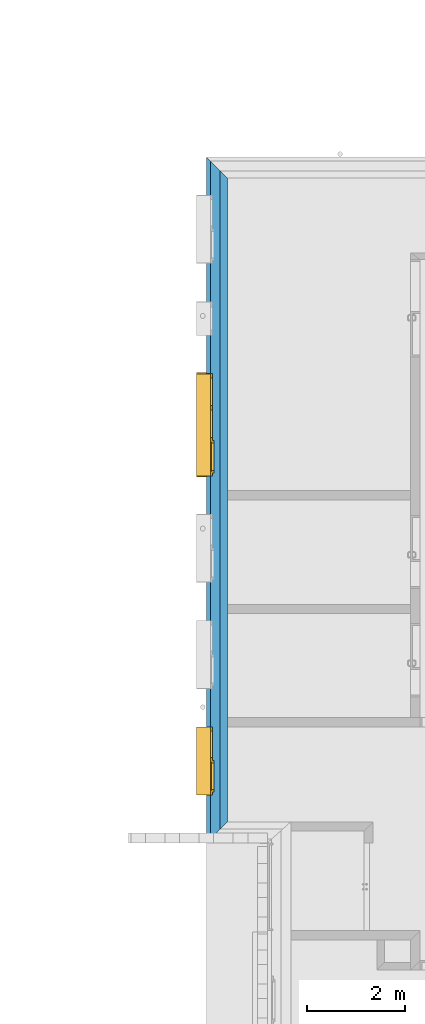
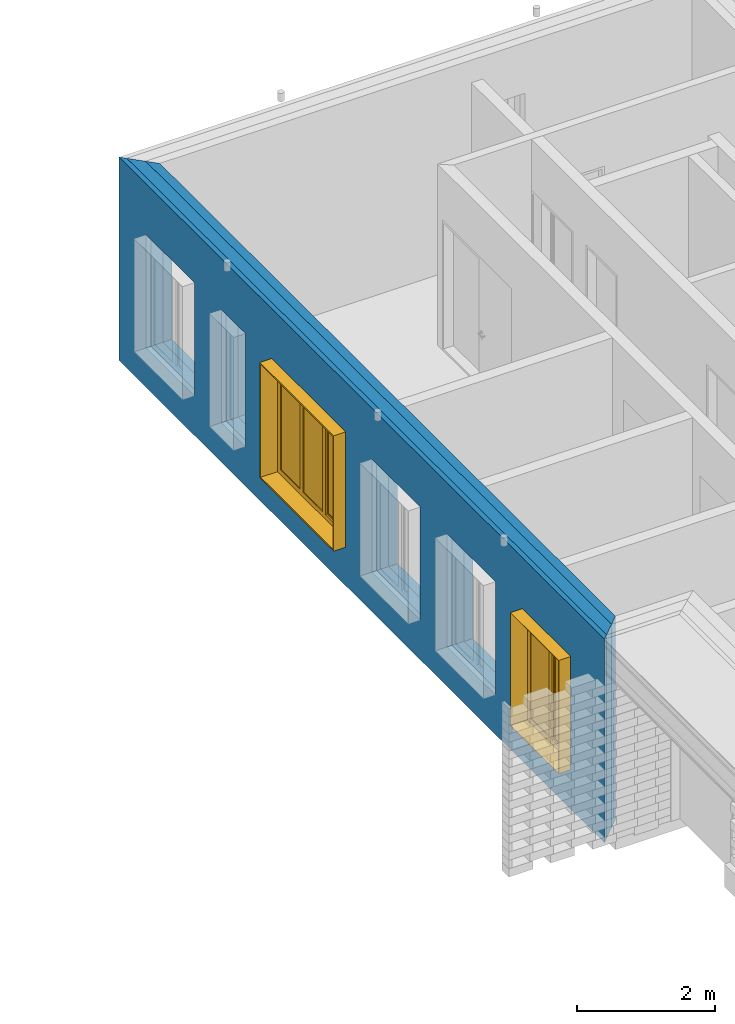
# One storey, part 15 of 62: 3 building element parts, 2 windows, 6 openings, 1 element without a shape of its own.
"""IFC2X3 building model written with IfcOpenShell, lengths in millimetres."""

from ifc_helpers import new_model, entity, si_unit, converted_unit, derived_unit, money_unit, direction, frame, origin_with_axes, origin_2d_with_axis, place, context, subcontext, project, spatial, polyline, rectangle, outline, extrude, open_shell, faceted_brep, surface_model, source, transform, mapped, material, type_object, element, fill, aggregate, save


model = new_model("IFC2X3")

# Units and contexts
model_context = context("Model", 3, precision=0.01, world=origin_with_axes(), true_north=direction((0.0, 1.0)))
body_context = subcontext(model_context, "Body", "Model", "MODEL_VIEW")
ifc_project = project(units=[si_unit("LENGTHUNIT", "METRE", prefix="MILLI"), si_unit("AREAUNIT", "SQUARE_METRE"), si_unit("VOLUMEUNIT", "CUBIC_METRE"), converted_unit("PLANEANGLEUNIT", "DEGREE", entity("IfcPlaneAngleMeasure", 0.0174532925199), si_unit("PLANEANGLEUNIT", "RADIAN"), dimensions=[0, 0, 0, 0, 0, 0, 0]), si_unit("SOLIDANGLEUNIT", "STERADIAN"), money_unit("EUR"), converted_unit("TIMEUNIT", "Year", entity("IfcTimeMeasure", 31556926.0), si_unit("TIMEUNIT", "SECOND"), dimensions=[0, 0, 1, 0, 0, 0, 0]), si_unit("MASSUNIT", "GRAM", prefix="KILO"), si_unit("THERMODYNAMICTEMPERATUREUNIT", "DEGREE_CELSIUS"), si_unit("LUMINOUSINTENSITYUNIT", "LUMEN"), si_unit("ENERGYUNIT", "JOULE", prefix="MEGA"), derived_unit("THERMALCONDUCTANCEUNIT", [(si_unit("POWERUNIT", "WATT"), 1), (si_unit("LENGTHUNIT", "METRE"), -1), (si_unit("THERMODYNAMICTEMPERATUREUNIT", "KELVIN"), -1)]), derived_unit("SPECIFICHEATCAPACITYUNIT", [(si_unit("ENERGYUNIT", "JOULE"), 1), (si_unit("MASSUNIT", "GRAM", prefix="KILO"), -1), (si_unit("THERMODYNAMICTEMPERATUREUNIT", "KELVIN"), -1)]), derived_unit("MASSDENSITYUNIT", [(si_unit("MASSUNIT", "GRAM", prefix="KILO"), 1), (si_unit("VOLUMEUNIT", "CUBIC_METRE"), -1)])], contexts=[model_context])

# Site, building, storey
site_placement = place(None, origin_with_axes())
site = spatial("IfcSite", under=ifc_project, at=site_placement, Name="KIRDE 14, ELVA", CompositionType="ELEMENT")
building_placement = place(site_placement, origin_with_axes())
building = spatial("IfcBuilding", under=site, at=building_placement, Name="PPA ja Päästeameti ühishoone", CompositionType="ELEMENT")
storey_placement = place(building_placement, origin_with_axes())
storey = spatial("IfcBuildingStorey", under=building, at=storey_placement, Name="Esimene korrus", CompositionType="ELEMENT", Elevation=0.0)

# Window
window_style_1 = type_object("IfcWindowStyle", Name="Double Window 24", ConstructionType="NOTDEFINED", OperationType="DOUBLE_PANEL_VERTICAL", ParameterTakesPrecedence=False, Sizeable=False)
shared_shape_1 = source(origin_with_axes(), body_context, "Body", "SurfaceModel", [
    faceted_brep([(700.0, -50.0, 0.0), (700.0, -130.0, 0.0), (-700.0, -130.0, 0.0), (-700.0, -50.0, 0.0), (700.0, -50.0, 2000.0), (700.0, -130.0, 2000.0), (-700.0, -130.0, 2000.0), (695.0, -130.0, 5.0), (-695.0, -130.0, 5.0), (-695.0, -130.0, 1995.0), (695.0, -130.0, 1995.0), (-700.0, -50.0, 2000.0), (695.0, -50.0, 5.0), (695.0, -50.0, 1995.0), (-695.0, -50.0, 1995.0), (-695.0, -50.0, 5.0)], [[[0, 1, 2, 3]], [[4, 5, 1, 0]], [[1, 5, 6, 2], [7, 8, 9, 10]], [[3, 2, 6, 11]], [[0, 3, 11, 4], [12, 13, 14, 15]], [[11, 6, 5, 4]], [[15, 8, 7, 12]], [[14, 9, 8, 15]], [[13, 10, 9, 14]], [[12, 7, 10, 13]]]),
    faceted_brep([(700.0, -330.0, 0.0), (695.0, -330.0, 5.0), (695.0, -130.0, 5.0), (700.0, -130.0, 0.0), (700.0, -330.0, 2000.0), (695.0, -330.0, 1995.0), (695.0, -130.0, 1995.0), (700.0, -130.0, 2000.0)], [[[0, 1, 2, 3]], [[0, 4, 5, 1]], [[1, 5, 6, 2]], [[3, 2, 6, 7]], [[4, 0, 3, 7]], [[5, 4, 7, 6]]]),
    faceted_brep([(-700.0, -330.0, 2000.0), (-695.0, -330.0, 1995.0), (-695.0, -130.0, 1995.0), (-700.0, -130.0, 2000.0), (-700.0, -330.0, 0.0), (-695.0, -330.0, 5.0), (-695.0, -130.0, 5.0), (-700.0, -130.0, 0.0)], [[[0, 1, 2, 3]], [[0, 4, 5, 1]], [[1, 5, 6, 2]], [[3, 2, 6, 7]], [[4, 0, 3, 7]], [[5, 4, 7, 6]]]),
    faceted_brep([(-700.0, -330.0, 0.0), (-695.0, -330.0, 5.0), (-695.0, -130.0, 5.0), (-700.0, -130.0, 0.0), (700.0, -330.0, 0.0), (695.0, -330.0, 5.0), (695.0, -130.0, 5.0), (700.0, -130.0, 0.0)], [[[0, 1, 2, 3]], [[0, 4, 5, 1]], [[1, 5, 6, 2]], [[3, 2, 6, 7]], [[4, 0, 3, 7]], [[5, 4, 7, 6]]]),
    faceted_brep([(700.0, -330.0, 2000.0), (695.0, -330.0, 1995.0), (695.0, -130.0, 1995.0), (700.0, -130.0, 2000.0), (-700.0, -330.0, 2000.0), (-695.0, -330.0, 1995.0), (-695.0, -130.0, 1995.0), (-700.0, -130.0, 2000.0)], [[[0, 1, 2, 3]], [[0, 4, 5, 1]], [[1, 5, 6, 2]], [[3, 2, 6, 7]], [[4, 0, 3, 7]], [[5, 4, 7, 6]]]),
    faceted_brep([(635.0, 0.0, 1910.0), (635.0, -25.0, 1910.0), (610.0, -25.0, 1910.0), (610.0, -50.0, 1910.0), (700.0, -50.0, 1910.0), (700.0, 0.0, 1910.0), (635.0, 0.0, 90.0), (635.0, -25.0, 90.0), (610.0, -25.0, 90.0), (610.0, -50.0, 90.0), (700.0, -50.0, 90.0), (700.0, 0.0, 90.0)], [[[0, 1, 2, 3, 4, 5]], [[1, 0, 6, 7]], [[8, 2, 1, 7]], [[2, 8, 9, 3]], [[4, 3, 9, 10]], [[5, 4, 10, 11]], [[6, 0, 5, 11]], [[7, 6, 11, 10, 9, 8]]]),
    faceted_brep([(20.0, -25.0, 1910.0), (-5.0, -25.0, 1910.0), (-5.0, 0.0, 1910.0), (-70.0, 0.0, 1910.0), (-70.0, -50.0, 1910.0), (20.0, -50.0, 1910.0), (20.0, -25.0, 90.0), (-5.0, -25.0, 90.0), (-5.0, 0.0, 90.0), (-70.0, 0.0, 90.0), (-70.0, -50.0, 90.0), (20.0, -50.0, 90.0)], [[[0, 1, 2, 3, 4, 5]], [[1, 0, 6, 7]], [[8, 2, 1, 7]], [[2, 8, 9, 3]], [[9, 10, 4, 3]], [[10, 11, 5, 4]], [[6, 0, 5, 11]], [[7, 6, 11, 10, 9, 8]]]),
    faceted_brep([(20.0, -25.0, 90.0), (-5.0, -25.0, 90.0), (-5.0, 0.0, 90.0), (-70.0, 0.0, 90.0), (-70.0, -50.0, 90.0), (20.0, -50.0, 90.0), (610.0, -25.0, 90.0), (635.0, -25.0, 90.0), (635.0, -25.0, 65.0), (-5.0, -25.0, 65.0), (-5.0, 0.0, 65.0), (635.0, 0.0, 65.0), (635.0, 0.0, 90.0), (700.0, 0.0, 90.0), (700.0, 0.0, 0.0), (-700.0, 0.0, 0.0), (-700.0, 0.0, 90.0), (-610.0, 0.0, 90.0), (-610.0, -50.0, 90.0), (700.0, -50.0, 90.0), (610.0, -50.0, 90.0), (-700.0, -50.0, 90.0), (-700.0, -50.0, 0.0), (700.0, -50.0, 0.0)], [[[0, 1, 2, 3, 4, 5]], [[1, 0, 6, 7, 8, 9]], [[10, 2, 1, 9]], [[11, 12, 13, 14, 15, 16, 17, 3, 2, 10]], [[17, 18, 4, 3]], [[19, 20, 5, 4, 18, 21, 22, 23]], [[6, 0, 5, 20]], [[7, 6, 20, 19, 13, 12]], [[7, 12, 11, 8]], [[11, 10, 9, 8]], [[13, 19, 23, 14]], [[14, 23, 22, 15]], [[15, 22, 21, 16]], [[16, 21, 18, 17]]]),
    faceted_brep([(635.0, 0.0, 1910.0), (635.0, 0.0, 1935.0), (-5.0, 0.0, 1935.0), (-5.0, 0.0, 1910.0), (-70.0, 0.0, 1910.0), (-610.0, 0.0, 1910.0), (-700.0, 0.0, 1910.0), (-700.0, 0.0, 2000.0), (700.0, 0.0, 2000.0), (700.0, 0.0, 1910.0), (635.0, -25.0, 1910.0), (635.0, -25.0, 1935.0), (-5.0, -25.0, 1935.0), (-5.0, -25.0, 1910.0), (20.0, -25.0, 1910.0), (20.0, -50.0, 1910.0), (-70.0, -50.0, 1910.0), (-610.0, -50.0, 1910.0), (-700.0, -50.0, 1910.0), (-700.0, -50.0, 2000.0), (700.0, -50.0, 2000.0), (700.0, -50.0, 1910.0), (610.0, -50.0, 1910.0), (610.0, -25.0, 1910.0)], [[[0, 1, 2, 3, 4, 5, 6, 7, 8, 9]], [[1, 0, 10, 11]], [[2, 1, 11, 12]], [[3, 2, 12, 13]], [[13, 14, 15, 16, 4, 3]], [[4, 16, 17, 5]], [[5, 17, 18, 6]], [[6, 18, 19, 7]], [[7, 19, 20, 8]], [[8, 20, 21, 9]], [[10, 0, 9, 21, 22, 23]], [[14, 13, 12, 11, 10, 23]], [[14, 23, 22, 15]], [[16, 15, 22, 21, 20, 19, 18, 17]]]),
    faceted_brep([(-610.0, -50.0, 90.0), (-700.0, -50.0, 90.0), (-700.0, 0.0, 90.0), (-610.0, 0.0, 90.0), (-610.0, -50.0, 1910.0), (-700.0, -50.0, 1910.0), (-700.0, 0.0, 1910.0), (-610.0, 0.0, 1910.0)], [[[0, 1, 2, 3]], [[0, 4, 5, 1]], [[1, 5, 6, 2]], [[3, 2, 6, 7]], [[4, 0, 3, 7]], [[5, 4, 7, 6]]]),
    faceted_brep([(585.0, -25.0, 1885.0), (635.0, -25.0, 1885.0), (635.0, 25.0, 1885.0), (585.0, 25.0, 1885.0), (585.0, -25.0, 115.0), (635.0, -25.0, 115.0), (635.0, 25.0, 115.0), (585.0, 25.0, 115.0)], [[[0, 1, 2, 3]], [[0, 4, 5, 1]], [[1, 5, 6, 2]], [[3, 2, 6, 7]], [[4, 0, 3, 7]], [[5, 4, 7, 6]]]),
    faceted_brep([(45.0, -25.0, 115.0), (-5.0, -25.0, 115.0), (-5.0, 25.0, 115.0), (45.0, 25.0, 115.0), (45.0, -25.0, 1885.0), (-5.0, -25.0, 1885.0), (-5.0, 25.0, 1885.0), (45.0, 25.0, 1885.0)], [[[0, 1, 2, 3]], [[0, 4, 5, 1]], [[1, 5, 6, 2]], [[3, 2, 6, 7]], [[4, 0, 3, 7]], [[5, 4, 7, 6]]]),
    faceted_brep([(-5.0, -25.0, 65.0), (-5.0, -25.0, 115.0), (-5.0, 25.0, 115.0), (-5.0, 25.0, 65.0), (635.0, -25.0, 65.0), (635.0, -25.0, 115.0), (585.0, -25.0, 115.0), (45.0, -25.0, 115.0), (45.0, 25.0, 115.0), (585.0, 25.0, 115.0), (635.0, 25.0, 115.0), (635.0, 25.0, 65.0)], [[[0, 1, 2, 3]], [[0, 4, 5, 6, 7, 1]], [[1, 7, 8, 2]], [[3, 2, 8, 9, 10, 11]], [[4, 0, 3, 11]], [[5, 4, 11, 10]], [[6, 5, 10, 9]], [[7, 6, 9, 8]]]),
    faceted_brep([(635.0, -25.0, 1935.0), (635.0, -25.0, 1885.0), (635.0, 25.0, 1885.0), (635.0, 25.0, 1935.0), (-5.0, -25.0, 1935.0), (-5.0, -25.0, 1885.0), (45.0, -25.0, 1885.0), (585.0, -25.0, 1885.0), (585.0, 25.0, 1885.0), (45.0, 25.0, 1885.0), (-5.0, 25.0, 1885.0), (-5.0, 25.0, 1935.0)], [[[0, 1, 2, 3]], [[0, 4, 5, 6, 7, 1]], [[1, 7, 8, 2]], [[3, 2, 8, 9, 10, 11]], [[4, 0, 3, 11]], [[5, 4, 11, 10]], [[6, 5, 10, 9]], [[7, 6, 9, 8]]]),
    surface_model("IfcShellBasedSurfaceModel", [(585.0, -10.0, 115.0), (585.0, -10.0, 1885.0), (45.0, -10.0, 1885.0), (45.0, -10.0, 115.0)], [open_shell([[[0, 1, 2, 3]]])]),
    surface_model("IfcShellBasedSurfaceModel", [(585.0, 10.0, 115.0), (45.0, 10.0, 115.0), (45.0, 10.0, 1885.0), (585.0, 10.0, 1885.0)], [open_shell([[[0, 1, 2, 3]]])]),
    surface_model("IfcShellBasedSurfaceModel", [(-70.0, -35.0, 90.0), (-70.0, -35.0, 1910.0), (-610.0, -35.0, 1910.0), (-610.0, -35.0, 90.0)], [open_shell([[[0, 1, 2, 3]]])]),
    surface_model("IfcShellBasedSurfaceModel", [(-70.0, -15.0, 90.0), (-610.0, -15.0, 90.0), (-610.0, -15.0, 1910.0), (-70.0, -15.0, 1910.0)], [open_shell([[[0, 1, 2, 3]]])]),
])
wall_placement = place(storey_placement, frame((6.053596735e-06, 11400.3970033, 0.0), z_axis=(0.0, 0.0, 1.0), x_axis=(-3.88068132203e-10, 1.0, 0.0)))
opening_1_placement = place(wall_placement, frame((1249.48617181, 0.0, 700.0), z_axis=(0.0, 0.0, 1.0), x_axis=(1.0, 0.0, 0.0)))
window_1_placement = place(opening_1_placement, frame((700.0, 0.0, 0.0), z_axis=(0.0, 0.0, 1.0), x_axis=(-1.0, 0.0, 0.0)))
window_1 = element("IfcWindow", 1, at=window_1_placement, inside=storey, type_object=window_style_1, Name="A-05", ObjectType="WINDOW", OverallHeight=2000.0, OverallWidth=1400.0, context=body_context, shape_type="MappedRepresentation", body=[
    mapped(shared_shape_1, transform((699.999999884, -299.999999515, 0.0))),
])

window_style_2 = type_object("IfcWindowStyle", Name="Triple Window 24", ConstructionType="NOTDEFINED", OperationType="TRIPLE_PANEL_VERTICAL", ParameterTakesPrecedence=False, Sizeable=False)
shared_shape_2 = source(origin_with_axes(), body_context, "Body", "SurfaceModel", [
    faceted_brep([(1050.0, -50.0, 0.0), (1050.0, -130.0, 0.0), (-1050.0, -130.0, 0.0), (-1050.0, -50.0, 0.0), (1050.0, -50.0, 2000.0), (1050.0, -130.0, 2000.0), (-1050.0, -130.0, 2000.0), (1045.0, -130.0, 5.0), (-1045.0, -130.0, 5.0), (-1045.0, -130.0, 1995.0), (1045.0, -130.0, 1995.0), (-1050.0, -50.0, 2000.0), (1045.0, -50.0, 5.0), (1045.0, -50.0, 1995.0), (-1045.0, -50.0, 1995.0), (-1045.0, -50.0, 5.0)], [[[0, 1, 2, 3]], [[4, 5, 1, 0]], [[1, 5, 6, 2], [7, 8, 9, 10]], [[3, 2, 6, 11]], [[0, 3, 11, 4], [12, 13, 14, 15]], [[11, 6, 5, 4]], [[15, 8, 7, 12]], [[14, 9, 8, 15]], [[13, 10, 9, 14]], [[12, 7, 10, 13]]]),
    faceted_brep([(1070.0, -330.0, -20.0), (1045.0, -330.0, 5.0), (1045.0, -130.0, 5.0), (1070.0, -130.0, -20.0), (1070.0, -330.0, 2020.0), (1045.0, -330.0, 1995.0), (1045.0, -130.0, 1995.0), (1070.0, -130.0, 2020.0)], [[[0, 1, 2, 3]], [[0, 4, 5, 1]], [[1, 5, 6, 2]], [[3, 2, 6, 7]], [[4, 0, 3, 7]], [[5, 4, 7, 6]]]),
    faceted_brep([(-1070.0, -330.0, 2020.0), (-1045.0, -330.0, 1995.0), (-1045.0, -130.0, 1995.0), (-1070.0, -130.0, 2020.0), (-1070.0, -330.0, -20.0), (-1045.0, -330.0, 5.0), (-1045.0, -130.0, 5.0), (-1070.0, -130.0, -20.0)], [[[0, 1, 2, 3]], [[0, 4, 5, 1]], [[1, 5, 6, 2]], [[3, 2, 6, 7]], [[4, 0, 3, 7]], [[5, 4, 7, 6]]]),
    faceted_brep([(-1070.0, -330.0, -20.0), (-1045.0, -330.0, 5.0), (-1045.0, -130.0, 5.0), (-1070.0, -130.0, -20.0), (1070.0, -330.0, -20.0), (1045.0, -330.0, 5.0), (1045.0, -130.0, 5.0), (1070.0, -130.0, -20.0)], [[[0, 1, 2, 3]], [[0, 4, 5, 1]], [[1, 5, 6, 2]], [[3, 2, 6, 7]], [[4, 0, 3, 7]], [[5, 4, 7, 6]]]),
    faceted_brep([(1070.0, -330.0, 2020.0), (1045.0, -330.0, 1995.0), (1045.0, -130.0, 1995.0), (1070.0, -130.0, 2020.0), (-1070.0, -330.0, 2020.0), (-1045.0, -330.0, 1995.0), (-1045.0, -130.0, 1995.0), (-1070.0, -130.0, 2020.0)], [[[0, 1, 2, 3]], [[0, 4, 5, 1]], [[1, 5, 6, 2]], [[3, 2, 6, 7]], [[4, 0, 3, 7]], [[5, 4, 7, 6]]]),
    faceted_brep([(985.0, 0.0, 1910.0), (985.0, -25.0, 1910.0), (960.0, -25.0, 1910.0), (960.0, -50.0, 1910.0), (1050.0, -50.0, 1910.0), (1050.0, 0.0, 1910.0), (985.0, 0.0, 90.0), (985.0, -25.0, 90.0), (960.0, -25.0, 90.0), (960.0, -50.0, 90.0), (1050.0, -50.0, 90.0), (1050.0, 0.0, 90.0)], [[[0, 1, 2, 3, 4, 5]], [[1, 0, 6, 7]], [[8, 2, 1, 7]], [[2, 8, 9, 3]], [[4, 3, 9, 10]], [[5, 4, 10, 11]], [[6, 0, 5, 11]], [[7, 6, 11, 10, 9, 8]]]),
    faceted_brep([(346.666666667, -25.0, 1910.0), (321.666666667, -25.0, 1910.0), (321.666666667, 0.0, 1910.0), (256.666666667, 0.0, 1910.0), (256.666666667, -50.0, 1910.0), (346.666666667, -50.0, 1910.0), (346.666666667, -25.0, 90.0), (321.666666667, -25.0, 90.0), (321.666666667, 0.0, 90.0), (256.666666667, 0.0, 90.0), (256.666666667, -50.0, 90.0), (346.666666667, -50.0, 90.0)], [[[0, 1, 2, 3, 4, 5]], [[1, 0, 6, 7]], [[8, 2, 1, 7]], [[2, 8, 9, 3]], [[9, 10, 4, 3]], [[5, 4, 10, 11]], [[6, 0, 5, 11]], [[7, 6, 11, 10, 9, 8]]]),
    faceted_brep([(346.666666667, -25.0, 90.0), (321.666666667, -25.0, 90.0), (321.666666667, 0.0, 90.0), (256.666666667, 0.0, 90.0), (256.666666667, -50.0, 90.0), (346.666666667, -50.0, 90.0), (960.0, -25.0, 90.0), (985.0, -25.0, 90.0), (985.0, -25.0, 65.0), (321.666666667, -25.0, 65.0), (321.666666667, 0.0, 65.0), (985.0, 0.0, 65.0), (985.0, 0.0, 90.0), (1050.0, 0.0, 90.0), (1050.0, 0.0, 0.0), (-1050.0, 0.0, 0.0), (-1050.0, 0.0, 90.0), (-960.0, 0.0, 90.0), (-396.666666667, 0.0, 90.0), (-306.666666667, 0.0, 90.0), (-306.666666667, -50.0, 90.0), (1050.0, -50.0, 90.0), (960.0, -50.0, 90.0), (-396.666666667, -50.0, 90.0), (-960.0, -50.0, 90.0), (-1050.0, -50.0, 90.0), (-1050.0, -50.0, 0.0), (1050.0, -50.0, 0.0)], [[[0, 1, 2, 3, 4, 5]], [[1, 0, 6, 7, 8, 9]], [[10, 2, 1, 9]], [[11, 12, 13, 14, 15, 16, 17, 18, 19, 3, 2, 10]], [[19, 20, 4, 3]], [[21, 22, 5, 4, 20, 23, 24, 25, 26, 27]], [[6, 0, 5, 22]], [[7, 6, 22, 21, 13, 12]], [[7, 12, 11, 8]], [[11, 10, 9, 8]], [[13, 21, 27, 14]], [[14, 27, 26, 15]], [[15, 26, 25, 16]], [[16, 25, 24, 17]], [[17, 24, 23, 18]], [[18, 23, 20, 19]]]),
    faceted_brep([(985.0, 0.0, 1910.0), (985.0, 0.0, 1935.0), (321.666666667, 0.0, 1935.0), (321.666666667, 0.0, 1910.0), (256.666666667, 0.0, 1910.0), (-306.666666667, 0.0, 1910.0), (-396.666666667, 0.0, 1910.0), (-960.0, 0.0, 1910.0), (-1050.0, 0.0, 1910.0), (-1050.0, 0.0, 2000.0), (1050.0, 0.0, 2000.0), (1050.0, 0.0, 1910.0), (985.0, -25.0, 1910.0), (985.0, -25.0, 1935.0), (321.666666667, -25.0, 1935.0), (321.666666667, -25.0, 1910.0), (346.666666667, -25.0, 1910.0), (346.666666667, -50.0, 1910.0), (256.666666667, -50.0, 1910.0), (-306.666666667, -50.0, 1910.0), (-396.666666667, -50.0, 1910.0), (-960.0, -50.0, 1910.0), (-1050.0, -50.0, 1910.0), (-1050.0, -50.0, 2000.0), (1050.0, -50.0, 2000.0), (1050.0, -50.0, 1910.0), (960.0, -50.0, 1910.0), (960.0, -25.0, 1910.0)], [[[0, 1, 2, 3, 4, 5, 6, 7, 8, 9, 10, 11]], [[1, 0, 12, 13]], [[2, 1, 13, 14]], [[3, 2, 14, 15]], [[15, 16, 17, 18, 4, 3]], [[4, 18, 19, 5]], [[5, 19, 20, 6]], [[6, 20, 21, 7]], [[7, 21, 22, 8]], [[8, 22, 23, 9]], [[9, 23, 24, 10]], [[10, 24, 25, 11]], [[12, 0, 11, 25, 26, 27]], [[16, 15, 14, 13, 12, 27]], [[16, 27, 26, 17]], [[18, 17, 26, 25, 24, 23, 22, 21, 20, 19]]]),
    faceted_brep([(-960.0, -50.0, 90.0), (-1050.0, -50.0, 90.0), (-1050.0, 0.0, 90.0), (-960.0, 0.0, 90.0), (-960.0, -50.0, 1910.0), (-1050.0, -50.0, 1910.0), (-1050.0, 0.0, 1910.0), (-960.0, 0.0, 1910.0)], [[[0, 1, 2, 3]], [[0, 4, 5, 1]], [[1, 5, 6, 2]], [[3, 2, 6, 7]], [[4, 0, 3, 7]], [[5, 4, 7, 6]]]),
    faceted_brep([(-306.666666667, -50.0, 90.0), (-396.666666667, -50.0, 90.0), (-396.666666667, 0.0, 90.0), (-306.666666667, 0.0, 90.0), (-306.666666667, -50.0, 1910.0), (-396.666666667, -50.0, 1910.0), (-396.666666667, 0.0, 1910.0), (-306.666666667, 0.0, 1910.0)], [[[0, 1, 2, 3]], [[0, 4, 5, 1]], [[1, 5, 6, 2]], [[3, 2, 6, 7]], [[4, 0, 3, 7]], [[5, 4, 7, 6]]]),
    faceted_brep([(935.0, -25.0, 1885.0), (985.0, -25.0, 1885.0), (985.0, 25.0, 1885.0), (935.0, 25.0, 1885.0), (935.0, -25.0, 115.0), (985.0, -25.0, 115.0), (985.0, 25.0, 115.0), (935.0, 25.0, 115.0)], [[[0, 1, 2, 3]], [[0, 4, 5, 1]], [[1, 5, 6, 2]], [[3, 2, 6, 7]], [[4, 0, 3, 7]], [[5, 4, 7, 6]]]),
    faceted_brep([(371.666666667, -25.0, 115.0), (321.666666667, -25.0, 115.0), (321.666666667, 25.0, 115.0), (371.666666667, 25.0, 115.0), (371.666666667, -25.0, 1885.0), (321.666666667, -25.0, 1885.0), (321.666666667, 25.0, 1885.0), (371.666666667, 25.0, 1885.0)], [[[0, 1, 2, 3]], [[0, 4, 5, 1]], [[1, 5, 6, 2]], [[3, 2, 6, 7]], [[4, 0, 3, 7]], [[5, 4, 7, 6]]]),
    faceted_brep([(321.666666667, -25.0, 65.0), (321.666666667, -25.0, 115.0), (321.666666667, 25.0, 115.0), (321.666666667, 25.0, 65.0), (985.0, -25.0, 65.0), (985.0, -25.0, 115.0), (935.0, -25.0, 115.0), (371.666666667, -25.0, 115.0), (371.666666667, 25.0, 115.0), (935.0, 25.0, 115.0), (985.0, 25.0, 115.0), (985.0, 25.0, 65.0)], [[[0, 1, 2, 3]], [[0, 4, 5, 6, 7, 1]], [[1, 7, 8, 2]], [[3, 2, 8, 9, 10, 11]], [[4, 0, 3, 11]], [[5, 4, 11, 10]], [[6, 5, 10, 9]], [[7, 6, 9, 8]]]),
    faceted_brep([(985.0, -25.0, 1935.0), (985.0, -25.0, 1885.0), (985.0, 25.0, 1885.0), (985.0, 25.0, 1935.0), (321.666666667, -25.0, 1935.0), (321.666666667, -25.0, 1885.0), (371.666666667, -25.0, 1885.0), (935.0, -25.0, 1885.0), (935.0, 25.0, 1885.0), (371.666666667, 25.0, 1885.0), (321.666666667, 25.0, 1885.0), (321.666666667, 25.0, 1935.0)], [[[0, 1, 2, 3]], [[0, 4, 5, 6, 7, 1]], [[1, 7, 8, 2]], [[3, 2, 8, 9, 10, 11]], [[4, 0, 3, 11]], [[5, 4, 11, 10]], [[6, 5, 10, 9]], [[7, 6, 9, 8]]]),
    surface_model("IfcShellBasedSurfaceModel", [(935.0, -10.0, 115.0), (935.0, -10.0, 1885.0), (371.666666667, -10.0, 1885.0), (371.666666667, -10.0, 115.0)], [open_shell([[[0, 1, 2, 3]]])]),
    surface_model("IfcShellBasedSurfaceModel", [(935.0, 10.0, 115.0), (371.666666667, 10.0, 115.0), (371.666666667, 10.0, 1885.0), (935.0, 10.0, 1885.0)], [open_shell([[[0, 1, 2, 3]]])]),
    surface_model("IfcShellBasedSurfaceModel", [(256.666666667, -35.0, 90.0), (256.666666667, -35.0, 1910.0), (-306.666666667, -35.0, 1910.0), (-306.666666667, -35.0, 90.0)], [open_shell([[[0, 1, 2, 3]]])]),
    surface_model("IfcShellBasedSurfaceModel", [(256.666666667, -15.0, 90.0), (-306.666666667, -15.0, 90.0), (-306.666666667, -15.0, 1910.0), (256.666666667, -15.0, 1910.0)], [open_shell([[[0, 1, 2, 3]]])]),
    surface_model("IfcShellBasedSurfaceModel", [(-396.666666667, -35.0, 90.0), (-396.666666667, -35.0, 1910.0), (-960.0, -35.0, 1910.0), (-960.0, -35.0, 90.0)], [open_shell([[[0, 1, 2, 3]]])]),
    surface_model("IfcShellBasedSurfaceModel", [(-396.666666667, -15.0, 90.0), (-960.0, -15.0, 90.0), (-960.0, -15.0, 1910.0), (-396.666666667, -15.0, 1910.0)], [open_shell([[[0, 1, 2, 3]]])]),
])
opening_3_placement = place(wall_placement, frame((8139.48617181, 0.0, 700.0), z_axis=(0.0, 0.0, 1.0), x_axis=(1.0, 0.0, 0.0)))
window_2_placement = place(opening_3_placement, frame((1050.0, 0.0, 0.0), z_axis=(0.0, 0.0, 1.0), x_axis=(-1.0, 0.0, 0.0)))
window_2 = element("IfcWindow", 2, at=window_2_placement, inside=storey, type_object=window_style_2, Name="A-09", ObjectType="WINDOW", OverallHeight=2000.0, OverallWidth=2100.0, context=body_context, shape_type="MappedRepresentation", body=[
    mapped(shared_shape_2, transform((1049.99999988, -299.999996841, 0.0))),
])

# Wall, opening
wall_type = type_object("IfcWallType", Name="VS-01 430", PredefinedType="NOTDEFINED")
wall = element("IfcWall", 3, at=wall_placement, inside=storey, type_object=wall_type, Name="VS-01")
opening_1 = element("IfcOpeningElement", 4, at=opening_1_placement, cuts=wall, Name="A-05", context=body_context, shape_type="SweptSolid", body=[
    extrude(rectangle(XDim=1400.0, YDim=2000.0, at=origin_2d_with_axis()), frame((1.35823796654e-07, 349.999999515, 1000.0), z_axis=(-3.88068310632e-10, -1.0, 0.0), x_axis=(1.0, -3.880683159e-10, 0.0)), (0.0, 0.0, 1.0), 780.0),
    extrude(rectangle(XDim=1400.0, YDim=2000.0, at=origin_2d_with_axis()), frame((1.35823796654e-07, 349.999999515, 1000.0), z_axis=(3.88068290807e-10, 1.0, 0.0), x_axis=(1.0, -3.880683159e-10, 0.0)), (0.0, 0.0, 1.0), 510.0),
    extrude(rectangle(XDim=1400.0, YDim=2000.0, at=origin_2d_with_axis()), frame((1.66869185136e-07, 429.999999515, 1000.0), z_axis=(3.88068290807e-10, 1.0, 0.0), x_axis=(1.0, -3.880683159e-10, 0.0)), (0.0, 0.0, 1.0), 510.0),
])

fill(opening_1, window_1)

# Opening
opening_2_placement = place(wall_placement, frame((12149.4861718, 0.0, 700.0), z_axis=(0.0, 0.0, 1.0), x_axis=(1.0, 0.0, 0.0)))
element("IfcOpeningElement", 5, at=opening_2_placement, cuts=wall, Name="A-05", context=body_context, shape_type="SweptSolid", body=[
    extrude(rectangle(XDim=1400.0, YDim=2000.0, at=origin_2d_with_axis()), frame((1.35823796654e-07, 349.999995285, 1000.0), z_axis=(-3.88068310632e-10, -1.0, 0.0), x_axis=(1.0, -3.880683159e-10, 0.0)), (0.0, 0.0, 1.0), 780.0),
    extrude(rectangle(XDim=1400.0, YDim=2000.0, at=origin_2d_with_axis()), frame((1.35823796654e-07, 349.999995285, 1000.0), z_axis=(3.88068290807e-10, 1.0, 0.0), x_axis=(1.0, -3.880683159e-10, 0.0)), (0.0, 0.0, 1.0), 510.0),
    extrude(rectangle(XDim=1400.0, YDim=2000.0, at=origin_2d_with_axis()), frame((1.66870961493e-07, 429.999995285, 1000.0), z_axis=(3.88068290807e-10, 1.0, 0.0), x_axis=(1.0, -3.880683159e-10, 0.0)), (0.0, 0.0, 1.0), 510.0),
])

opening_3 = element("IfcOpeningElement", 6, at=opening_3_placement, cuts=wall, Name="A-09", context=body_context, shape_type="SweptSolid", body=[
    extrude(rectangle(XDim=2100.0, YDim=2000.0, at=origin_2d_with_axis()), frame((1.35823796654e-07, 349.999996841, 1000.0), z_axis=(-3.88068304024e-10, -1.0, 0.0), x_axis=(1.0, -3.880683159e-10, 0.0)), (0.0, 0.0, 1.0), 780.0),
    extrude(rectangle(XDim=2100.0, YDim=2000.0, at=origin_2d_with_axis()), frame((1.35823796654e-07, 349.999996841, 1000.0), z_axis=(3.88068343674e-10, 1.0, 0.0), x_axis=(1.0, -3.880683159e-10, 0.0)), (0.0, 0.0, 1.0), 510.0),
    extrude(rectangle(XDim=2140.0, YDim=2040.0, at=origin_2d_with_axis()), frame((1.66870961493e-07, 429.999996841, 1000.0), z_axis=(3.88068339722e-10, 1.0, 0.0), x_axis=(1.0, -3.880683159e-10, 0.0)), (0.0, 0.0, 1.0), 510.0),
])

fill(opening_3, window_2)

opening_4_placement = place(wall_placement, frame((10319.4861718, 0.0, 700.0), z_axis=(0.0, 0.0, 1.0), x_axis=(1.0, 0.0, 0.0)))
element("IfcOpeningElement", 7, at=opening_4_placement, cuts=wall, Name="A-01", context=body_context, shape_type="SweptSolid", body=[
    extrude(rectangle(XDim=700.0, YDim=2000.0, at=origin_2d_with_axis()), frame((1.35823796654e-07, 349.999995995, 1000.0), z_axis=(-3.88068290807e-10, -1.0, 0.0), x_axis=(1.0, -3.880683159e-10, 0.0)), (0.0, 0.0, 1.0), 780.0),
    extrude(rectangle(XDim=700.0, YDim=2000.0, at=origin_2d_with_axis()), frame((1.35823796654e-07, 349.999995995, 1000.0), z_axis=(3.88068330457e-10, 1.0, 0.0), x_axis=(1.0, -3.880683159e-10, 0.0)), (0.0, 0.0, 1.0), 510.0),
    extrude(rectangle(XDim=700.0, YDim=2000.0, at=origin_2d_with_axis()), frame((1.66870961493e-07, 429.999995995, 1000.0), z_axis=(3.88068330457e-10, 1.0, 0.0), x_axis=(1.0, -3.880683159e-10, 0.0)), (0.0, 0.0, 1.0), 510.0),
])

opening_5_placement = place(wall_placement, frame((5609.48617181, 0.0, 700.0), z_axis=(0.0, 0.0, 1.0), x_axis=(1.0, 0.0, 0.0)))
element("IfcOpeningElement", 8, at=opening_5_placement, cuts=wall, Name="A-05", context=body_context, shape_type="SweptSolid", body=[
    extrude(rectangle(XDim=1400.0, YDim=2000.0, at=origin_2d_with_axis()), frame((1.35823796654e-07, 349.999997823, 1000.0), z_axis=(-3.88068310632e-10, -1.0, 0.0), x_axis=(1.0, -3.880683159e-10, 0.0)), (0.0, 0.0, 1.0), 780.0),
    extrude(rectangle(XDim=1400.0, YDim=2000.0, at=origin_2d_with_axis()), frame((1.35823796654e-07, 349.999997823, 1000.0), z_axis=(3.88068350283e-10, 1.0, 0.0), x_axis=(1.0, -3.880683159e-10, 0.0)), (0.0, 0.0, 1.0), 510.0),
    extrude(rectangle(XDim=1400.0, YDim=2000.0, at=origin_2d_with_axis()), frame((1.66870961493e-07, 429.999997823, 1000.0), z_axis=(3.88068350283e-10, 1.0, 0.0), x_axis=(1.0, -3.880683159e-10, 0.0)), (0.0, 0.0, 1.0), 510.0),
])

opening_6_placement = place(wall_placement, frame((3429.48617181, 0.0, 700.0), z_axis=(0.0, 0.0, 1.0), x_axis=(1.0, 0.0, 0.0)))
element("IfcOpeningElement", 9, at=opening_6_placement, cuts=wall, Name="A-05", context=body_context, shape_type="SweptSolid", body=[
    extrude(rectangle(XDim=1400.0, YDim=2000.0, at=origin_2d_with_axis()), frame((1.35823796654e-07, 349.999998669, 1000.0), z_axis=(-3.88068310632e-10, -1.0, 0.0), x_axis=(1.0, -3.880683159e-10, 0.0)), (0.0, 0.0, 1.0), 780.0),
    extrude(rectangle(XDim=1400.0, YDim=2000.0, at=origin_2d_with_axis()), frame((1.35823796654e-07, 349.999998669, 1000.0), z_axis=(3.88068350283e-10, 1.0, 0.0), x_axis=(1.0, -3.880683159e-10, 0.0)), (0.0, 0.0, 1.0), 510.0),
    extrude(rectangle(XDim=1400.0, YDim=2000.0, at=origin_2d_with_axis()), frame((1.66869185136e-07, 429.999998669, 1000.0), z_axis=(3.88068350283e-10, 1.0, 0.0), x_axis=(1.0, -3.880683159e-10, 0.0)), (0.0, 0.0, 1.0), 510.0),
])

# Building element part
ifc_material_1 = material(Name="Raudbetoon Paneelid (2)")
building_element_part_1_placement = place(wall_placement, origin_with_axes())
building_element_part_1 = element("IfcBuildingElementPart", 10, at=building_element_part_1_placement, material=ifc_material_1, Name="Raudbetoon Paneelid (2)", context=body_context, shape_type="SweptSolid", body=[
    extrude(outline(polyline([(0.0, 0.0), (13199.419729, 0.0), (13349.419729, 150.0), (-149.999955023, 150.0), (0.0, 0.0)])), origin_with_axes(), (0.0, 0.0, 1.0), 3600.0),
])

ifc_material_2 = material(Name="Vahtpolüstüreen (4)")
building_element_part_2_placement = place(wall_placement, origin_with_axes())
building_element_part_2 = element("IfcBuildingElementPart", 11, at=building_element_part_2_placement, material=ifc_material_2, Name="Vahtpolüstüreen (4)", context=body_context, shape_type="SweptSolid", body=[
    extrude(outline(polyline([(-149.999955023, 150.0), (13349.419729, 150.0), (13549.4197289, 350.0), (-349.999895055, 350.0), (-149.999955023, 150.0)])), origin_with_axes(), (0.0, 0.0, 1.0), 3600.0),
])

building_element_part_3_placement = place(wall_placement, origin_with_axes())
building_element_part_3 = element("IfcBuildingElementPart", 12, at=building_element_part_3_placement, material=ifc_material_1, Name="Raudbetoon Paneelid (2)", context=body_context, shape_type="SweptSolid", body=[
    extrude(outline(polyline([(-349.999895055, 350.0), (13549.4197289, 350.0), (13629.4197289, 430.0), (-429.999871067, 430.0), (-349.999895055, 350.0)])), origin_with_axes(), (0.0, 0.0, 1.0), 3600.0),
])

aggregate(wall, [building_element_part_1, building_element_part_2, building_element_part_3])

save(model, "model.ifc")
